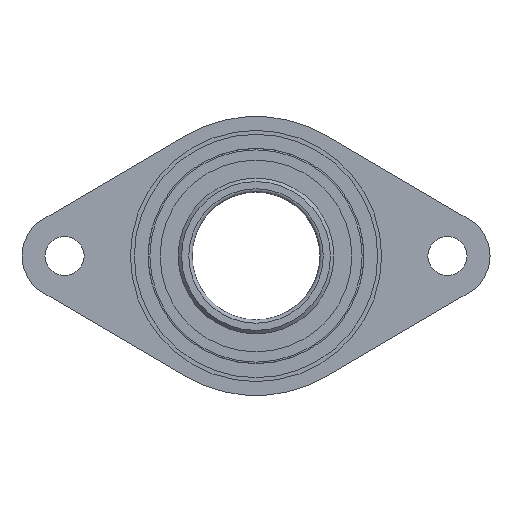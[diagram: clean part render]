
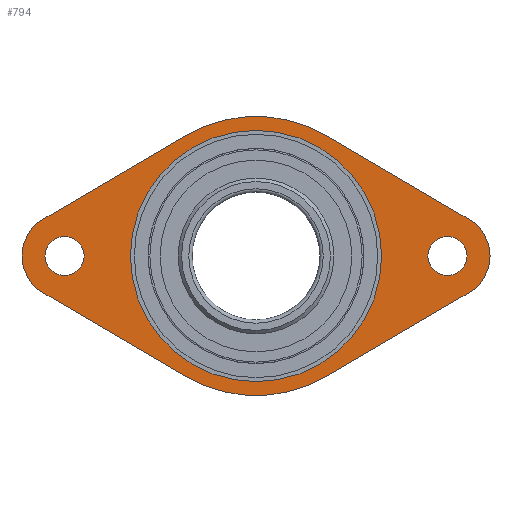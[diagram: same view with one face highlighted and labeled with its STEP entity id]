
A CAD part, left-side view. The second image highlights one B-rep face of the part: STEP entity #794.
In plain terms, the highlighted planar face has unit normal (-1, 0, 0).
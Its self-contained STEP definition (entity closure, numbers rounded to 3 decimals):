
#43 = EDGE_CURVE ( 'NONE', #1616, #1616, #2220, .T. ) ;
#48 = ORIENTED_EDGE ( 'NONE', *, *, #1085, .T. ) ;
#123 = CIRCLE ( 'NONE', #800, 82. ) ;
#125 = CIRCLE ( 'NONE', #818, 25. ) ;
#215 = EDGE_LOOP ( 'NONE', ( #1915, #1209, #2020, #1938, #2571, #546, #576, #844 ) ) ;
#229 = CARTESIAN_POINT ( 'NONE',  ( -34., 0., -73.8 ) ) ;
#231 = CARTESIAN_POINT ( 'NONE',  ( -34., 112.5, -11.5 ) ) ;
#259 = VECTOR ( 'NONE', #1386, 1000. ) ;
#269 = LINE ( 'NONE', #1992, #259 ) ;
#311 = CIRCLE ( 'NONE', #838, 11.5 ) ;
#351 = ORIENTED_EDGE ( 'NONE', *, *, #43, .T. ) ;
#364 = CARTESIAN_POINT ( 'NONE',  ( -34., -112.5, -11.5 ) ) ;
#367 = CARTESIAN_POINT ( 'NONE',  ( -34., 125.167, -21.554 ) ) ;
#376 = CIRCLE ( 'NONE', #820, 73.8 ) ;
#456 = PLANE ( 'NONE',  #1138 ) ;
#467 = DIRECTION ( 'NONE',  ( 1., 0., 0. ) ) ;
#476 = EDGE_LOOP ( 'NONE', ( #351 ) ) ;
#487 = DIRECTION ( 'NONE',  ( 0., 0., -1. ) ) ;
#493 = DIRECTION ( 'NONE',  ( 0., 0., -1. ) ) ;
#501 = DIRECTION ( 'NONE',  ( 1., 0., 0. ) ) ;
#515 = CARTESIAN_POINT ( 'NONE',  ( -34., -125.167, 21.554 ) ) ;
#546 = ORIENTED_EDGE ( 'NONE', *, *, #1147, .F. ) ;
#557 = VERTEX_POINT ( 'NONE', #2958 ) ;
#576 = ORIENTED_EDGE ( 'NONE', *, *, #606, .T. ) ;
#580 = DIRECTION ( 'NONE',  ( 0., -0.862, -0.507 ) ) ;
#585 = CARTESIAN_POINT ( 'NONE',  ( -34., -112.5, 0. ) ) ;
#606 = EDGE_CURVE ( 'E376', #2746, #766, #1118, .T. ) ;
#614 = CIRCLE ( 'NONE', #898, 82. ) ;
#712 = CIRCLE ( 'NONE', #1143, 25. ) ;
#733 = EDGE_LOOP ( 'NONE', ( #2792 ) ) ;
#746 = FACE_OUTER_BOUND ( 'NONE', #215, .T. ) ;
#766 = VERTEX_POINT ( 'NONE', #2512 ) ;
#775 = FACE_BOUND ( 'NONE', #733, .T. ) ;
#782 = FACE_BOUND ( 'NONE', #1189, .T. ) ;
#794 = ADVANCED_FACE ( 'E454', ( #775, #831, #782, #746 ), #456, .F. ) ;
#800 = AXIS2_PLACEMENT_3D ( 'NONE', #861, #855, #841 ) ;
#801 = EDGE_CURVE ( 'E246', #1361, #1724, #712, .T. ) ;
#818 = AXIS2_PLACEMENT_3D ( 'NONE', #943, #933, #890 ) ;
#820 = AXIS2_PLACEMENT_3D ( 'NONE', #1031, #1066, #1103 ) ;
#831 = FACE_BOUND ( 'NONE', #476, .T. ) ;
#838 = AXIS2_PLACEMENT_3D ( 'NONE', #1630, #1492, #1378 ) ;
#841 = DIRECTION ( 'NONE',  ( 0., 0., -1. ) ) ;
#844 = ORIENTED_EDGE ( 'NONE', *, *, #1152, .F. ) ;
#855 = DIRECTION ( 'NONE',  ( 1., 0., 0. ) ) ;
#861 = CARTESIAN_POINT ( 'NONE',  ( -34., 0., 0. ) ) ;
#890 = DIRECTION ( 'NONE',  ( 0., 0., -1. ) ) ;
#897 = EDGE_CURVE ( 'E214', #2786, #1782, #614, .T. ) ;
#898 = AXIS2_PLACEMENT_3D ( 'NONE', #1796, #1803, #2465 ) ;
#933 = DIRECTION ( 'NONE',  ( 1., 0., 0. ) ) ;
#943 = CARTESIAN_POINT ( 'NONE',  ( -34., 112.5, 0. ) ) ;
#950 = CARTESIAN_POINT ( 'NONE',  ( -34., 41.547, 70.696 ) ) ;
#983 = CARTESIAN_POINT ( 'NONE',  ( -34., -41.547, -70.696 ) ) ;
#994 = CARTESIAN_POINT ( 'NONE',  ( -34., 125.167, -21.554 ) ) ;
#1031 = CARTESIAN_POINT ( 'NONE',  ( -34., 0., 0. ) ) ;
#1066 = DIRECTION ( 'NONE',  ( 1., 0., 0. ) ) ;
#1085 = EDGE_CURVE ( 'NONE', #1425, #1425, #311, .T. ) ;
#1098 = EDGE_CURVE ( 'E193', #557, #2786, #269, .T. ) ;
#1103 = DIRECTION ( 'NONE',  ( 0., 0., -1. ) ) ;
#1107 = EDGE_CURVE ( 'NONE', #1423, #1423, #376, .T. ) ;
#1118 = LINE ( 'NONE', #367, #1216 ) ;
#1138 = AXIS2_PLACEMENT_3D ( 'NONE', #2198, #467, #487 ) ;
#1141 = CARTESIAN_POINT ( 'NONE',  ( -34., -112.5, 0. ) ) ;
#1143 = AXIS2_PLACEMENT_3D ( 'NONE', #585, #501, #493 ) ;
#1147 = EDGE_CURVE ( 'E382', #2746, #557, #125, .T. ) ;
#1148 = DIRECTION ( 'NONE',  ( 1., 0., 0. ) ) ;
#1152 = EDGE_CURVE ( 'E350', #2761, #766, #123, .T. ) ;
#1154 = DIRECTION ( 'NONE',  ( 0., 0., -1. ) ) ;
#1189 = EDGE_LOOP ( 'NONE', ( #48 ) ) ;
#1209 = ORIENTED_EDGE ( 'NONE', *, *, #801, .F. ) ;
#1216 = VECTOR ( 'NONE', #580, 1000. ) ;
#1361 = VERTEX_POINT ( 'NONE', #515 ) ;
#1378 = DIRECTION ( 'NONE',  ( 0., 0., -1. ) ) ;
#1386 = DIRECTION ( 'NONE',  ( 0., -0.862, 0.507 ) ) ;
#1423 = VERTEX_POINT ( 'NONE', #229 ) ;
#1425 = VERTEX_POINT ( 'NONE', #231 ) ;
#1492 = DIRECTION ( 'NONE',  ( 1., 0., 0. ) ) ;
#1616 = VERTEX_POINT ( 'NONE', #364 ) ;
#1630 = CARTESIAN_POINT ( 'NONE',  ( -34., 112.5, 0. ) ) ;
#1724 = VERTEX_POINT ( 'NONE', #3043 ) ;
#1782 = VERTEX_POINT ( 'NONE', #2986 ) ;
#1796 = CARTESIAN_POINT ( 'NONE',  ( -34., 0., 0. ) ) ;
#1803 = DIRECTION ( 'NONE',  ( 1., 0., 0. ) ) ;
#1876 = AXIS2_PLACEMENT_3D ( 'NONE', #1141, #1148, #1154 ) ;
#1915 = ORIENTED_EDGE ( 'NONE', *, *, #2145, .F. ) ;
#1938 = ORIENTED_EDGE ( 'NONE', *, *, #897, .F. ) ;
#1992 = CARTESIAN_POINT ( 'NONE',  ( -34., 125.167, 21.554 ) ) ;
#2020 = ORIENTED_EDGE ( 'NONE', *, *, #2053, .T. ) ;
#2053 = EDGE_CURVE ( 'E240', #1361, #1782, #2489, .T. ) ;
#2145 = EDGE_CURVE ( 'E329', #1724, #2761, #2443, .T. ) ;
#2198 = CARTESIAN_POINT ( 'NONE',  ( -34., 0., 0. ) ) ;
#2220 = CIRCLE ( 'NONE', #1876, 11.5 ) ;
#2423 = VECTOR ( 'NONE', #2513, 1000. ) ;
#2443 = LINE ( 'NONE', #2544, #2423 ) ;
#2465 = DIRECTION ( 'NONE',  ( 0., 0., -1. ) ) ;
#2482 = VECTOR ( 'NONE', #2622, 1000. ) ;
#2489 = LINE ( 'NONE', #2628, #2482 ) ;
#2512 = CARTESIAN_POINT ( 'NONE',  ( -34., 41.547, -70.696 ) ) ;
#2513 = DIRECTION ( 'NONE',  ( 0., 0.862, -0.507 ) ) ;
#2544 = CARTESIAN_POINT ( 'NONE',  ( -34., -125.167, -21.554 ) ) ;
#2571 = ORIENTED_EDGE ( 'NONE', *, *, #1098, .F. ) ;
#2622 = DIRECTION ( 'NONE',  ( 0., 0.862, 0.507 ) ) ;
#2628 = CARTESIAN_POINT ( 'NONE',  ( -34., -125.167, 21.554 ) ) ;
#2746 = VERTEX_POINT ( 'NONE', #994 ) ;
#2761 = VERTEX_POINT ( 'NONE', #983 ) ;
#2786 = VERTEX_POINT ( 'NONE', #950 ) ;
#2792 = ORIENTED_EDGE ( 'NONE', *, *, #1107, .T. ) ;
#2958 = CARTESIAN_POINT ( 'NONE',  ( -34., 125.167, 21.554 ) ) ;
#2986 = CARTESIAN_POINT ( 'NONE',  ( -34., -41.547, 70.696 ) ) ;
#3043 = CARTESIAN_POINT ( 'NONE',  ( -34., -125.167, -21.554 ) ) ;
